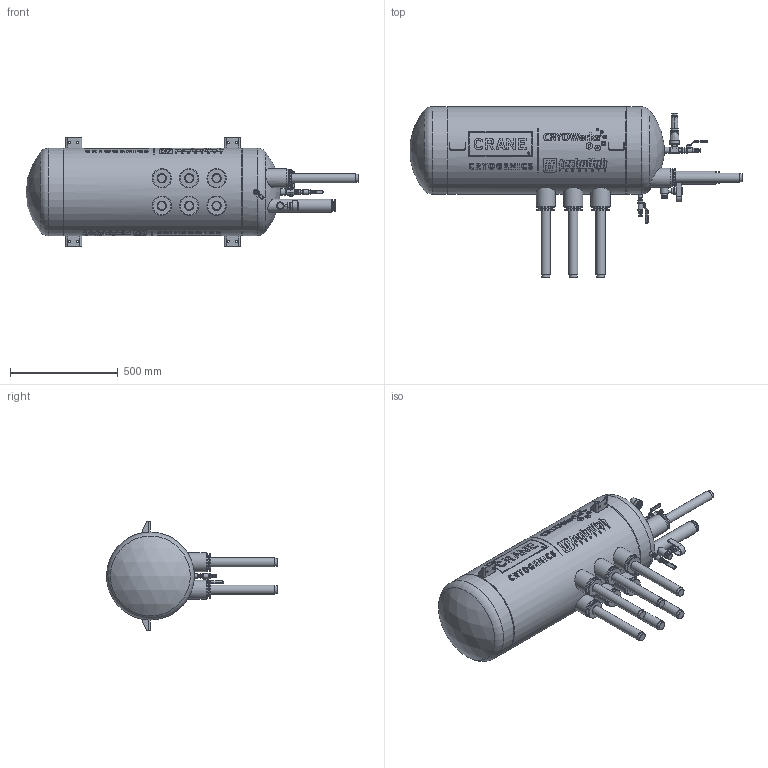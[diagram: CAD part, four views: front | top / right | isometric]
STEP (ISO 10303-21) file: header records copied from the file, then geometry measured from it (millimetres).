
FILE_DESCRIPTION (( 'STEP AP203' ), '1' );
FILE_NAME ('CA01760.step', '2025-12-17T20:03:12', ( '' ), ( '' ), 'SwSTEP 2.0', 'SolidWorks 2023', '' );
FILE_SCHEMA (( 'CONFIG_CONTROL_DESIGN' ));
Length unit declared in the file: inch
Products named in the file (1): CA01760
Bounding box: 1539.51 x 792.16 x 508 mm (x, y, z)
Volume: 150496710.4 mm3; surface area: 2375125.8 mm2
Topology: 1 solids, 13 shells, 2463 faces, 6197 edges, 3993 vertices
Faces by surface type: plane 1143, cylinder 632, cone 443, bspline 202, torus 29, sphere 14
Full cylindrical faces by diameter (mm): 4.182 x2, 4.581 x2, 4.75 x2, 4.775 x1, 4.977 x2, 5.527 x14, 5.71 x2, 6.221 x14, 6.272 x4, 6.35 x6, 6.446 x2, 7.112 x1, 7.722 x2, 7.976 x2, 8.307 x2, 8.598 x2, 9.188 x2, 9.246 x3, 9.322 x2, 9.525 x8, 9.544 x2, 9.842 x2, 10.171 x2, 10.262 x1, 10.661 x2, 11.112 x6, 11.225 x2, 12.494 x2, 12.7 x1, 12.804 x2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
Entity records: 172277 total; most frequent: CARTESIAN_POINT 119873, ORIENTED_EDGE 11230, DIRECTION 9515, EDGE_CURVE 5615, VERTEX_POINT 3815, AXIS2_PLACEMENT_3D 3630, EDGE_LOOP 3168, FACE_OUTER_BOUND 2667
